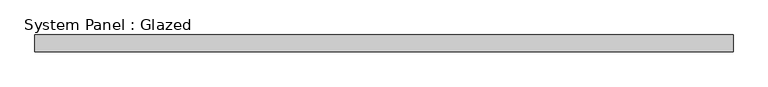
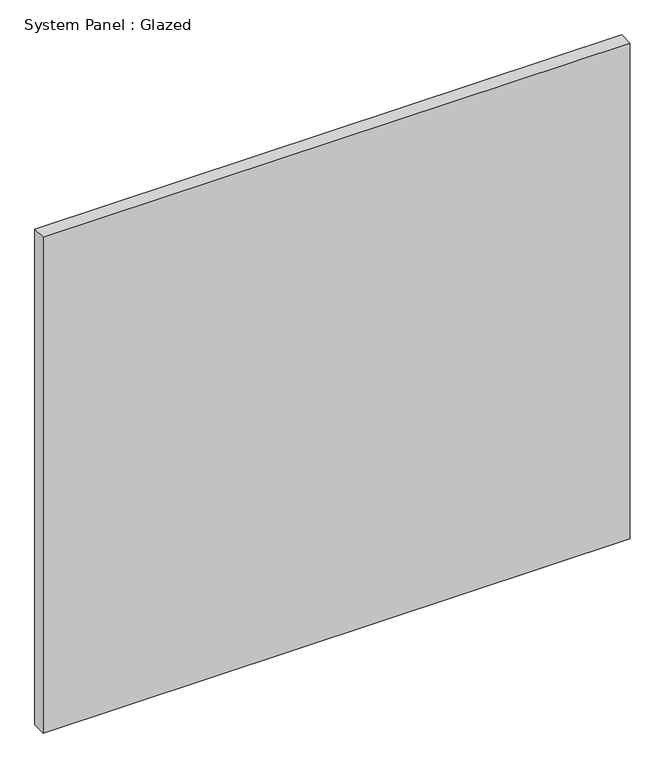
"""IFC4 building model written with IfcOpenShell, lengths in millimetres: plate geometry, System Panel : Glazed."""

from ifc_helpers import new_model, si_unit, origin, origin_with_axes, place, context, project, spatial, polyline, outline, extrude, source, transform, mapped, element, save


def system_panel_glazed_83b29ed4(model_context):
    return source(origin(), model_context, "Body", "SweptSolid", [
        extrude(outline(polyline([(518.3333332, 24.5), (-518.3333332, 24.5), (-518.3333332, 49.5), (518.3333332, 49.5), (518.3333332, 24.5)])), origin_with_axes(), (0.0, 0.0, 1.0), 925.0),
    ])


if __name__ == "__main__":
    model = new_model("IFC4")
    model_context = context("Model", 3, world=origin())
    ifc_project = project(units=[si_unit("LENGTHUNIT", "METRE", prefix="MILLI")], contexts=[model_context])
    site = spatial("IfcSite", under=ifc_project)
    building = spatial("IfcBuilding", under=site)
    placement = place(None, origin())
    system_panel_glazed_shape = system_panel_glazed_83b29ed4(model_context)
    element("IfcPlate", 1, ObjectType="System Panel : Glazed", at=placement, inside=building, context=model_context, shape_type="MappedRepresentation", body=[
        mapped(system_panel_glazed_shape, transform((0.0, 0.0, 0.0), x_axis=(1.0, 0.0, 0.0), y_axis=(0.0, 1.0, 0.0), z_axis=(0.0, 0.0, 1.0))),
    ])
    save(model, "model.ifc")
